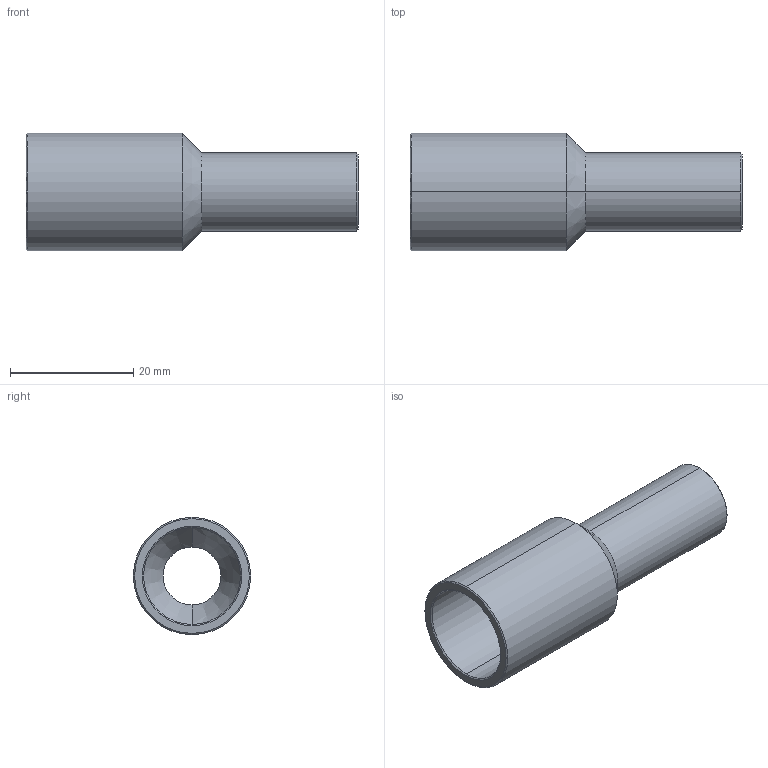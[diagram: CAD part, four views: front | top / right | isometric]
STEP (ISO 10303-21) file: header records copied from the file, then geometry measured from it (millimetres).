
FILE_DESCRIPTION (( 'STEP AP214' ), '1' );
FILE_NAME ('TE31SWW6L.75x.5-...STEP', '2016-05-29T09:52:00', ( 'eran' ), ( '' ), 'SwSTEP 2.0', 'SolidWorks 2016', '' );
FILE_SCHEMA (( 'AUTOMOTIVE_DESIGN' ));
Length unit declared in the file: inch
Products named in the file (1): TE31SWW6L.75x.5-..
Bounding box: 53.98 x 19.05 x 19.05 mm (x, y, z)
Volume: 5410.7 mm3; surface area: 4823.8 mm2
Topology: 1 solids, 1 shells, 22 faces, 44 edges, 24 vertices
Faces by surface type: cone 12, cylinder 8, plane 2
Entity records: 608 total; most frequent: DIRECTION 114, CARTESIAN_POINT 91, ORIENTED_EDGE 88, AXIS2_PLACEMENT_3D 47, EDGE_CURVE 44, VERTEX_POINT 24, EDGE_LOOP 24, CIRCLE 24
